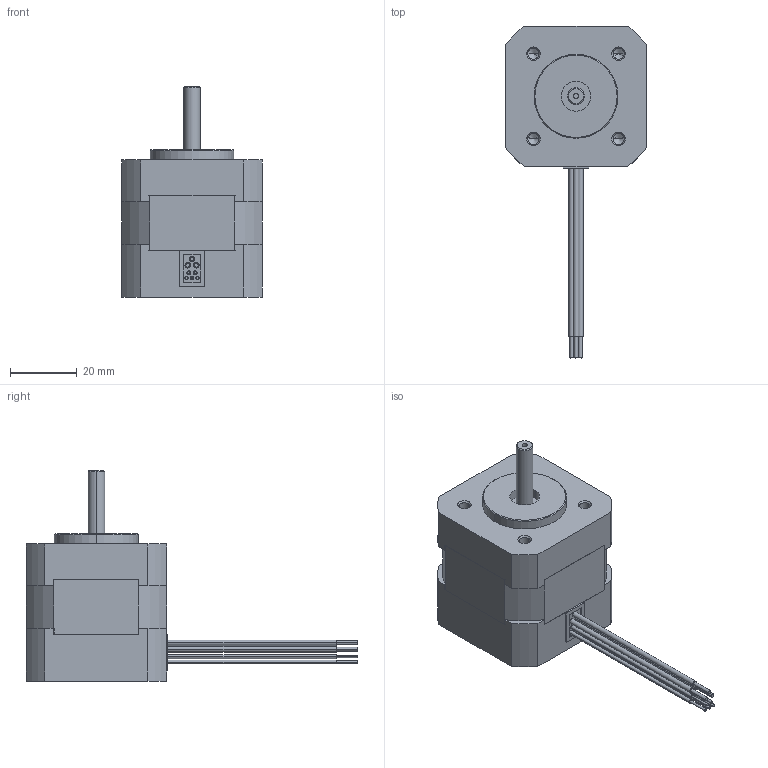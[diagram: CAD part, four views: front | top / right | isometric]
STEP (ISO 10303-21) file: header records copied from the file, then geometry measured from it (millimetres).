
FILE_DESCRIPTION (( 'STEP AP214' ), '1' );
FILE_NAME ('BLY171S.STEP', '2011-11-22T16:59:58', ( '' ), ( '' ), 'SwSTEP 2.0', 'SolidWorks 2011', '' );
FILE_SCHEMA (( 'AUTOMOTIVE_DESIGN' ));
Length unit declared in the file: inch
Products named in the file (1): BLY171S
Bounding box: 42.01 x 99.16 x 62.84 mm (x, y, z)
Volume: 71066.4 mm3; surface area: 13446.2 mm2
Topology: 1 solids, 1 shells, 228 faces, 542 edges, 350 vertices
Faces by surface type: plane 116, cylinder 90, cone 22
Entity records: 8265 total; most frequent: DIRECTION 1186, CARTESIAN_POINT 1113, ORIENTED_EDGE 1068, EDGE_CURVE 534, AXIS2_PLACEMENT_3D 423, VERTEX_POINT 350, LINE 340, VECTOR 340
